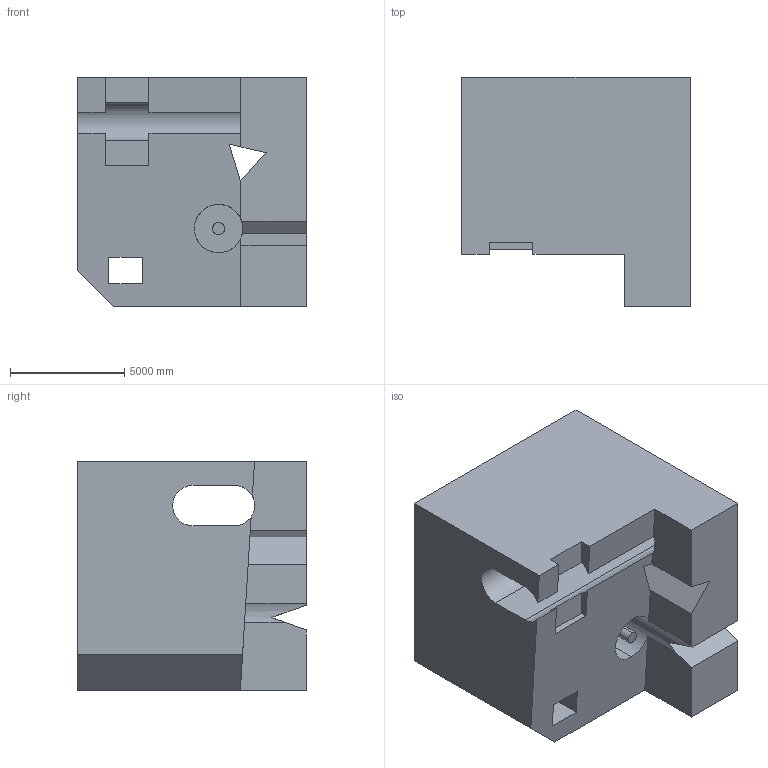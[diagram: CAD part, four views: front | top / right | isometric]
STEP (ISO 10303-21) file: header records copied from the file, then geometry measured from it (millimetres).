
FILE_DESCRIPTION (( 'STEP AP203' ), '1' );
FILE_NAME ('363.STEP', '2022-09-07T13:12:29', ( 'user' ), ( '' ), 'SwSTEP 2.0', 'SolidWorks 2021', '' );
FILE_SCHEMA (( 'CONFIG_CONTROL_DESIGN' ));
Length unit declared in the file: centimetre
Products named in the file (1): 363
Bounding box: 10000 x 10000 x 10000 mm (x, y, z)
Volume: 700865294040.5 mm3; surface area: 749008153 mm2
Topology: 1 solids, 1 shells, 47 faces, 135 edges, 90 vertices
Faces by surface type: plane 41, cylinder 6
Entity records: 1613 total; most frequent: CARTESIAN_POINT 294, ORIENTED_EDGE 270, DIRECTION 239, EDGE_CURVE 135, VECTOR 113, LINE 113, VERTEX_POINT 90, AXIS2_PLACEMENT_3D 63
